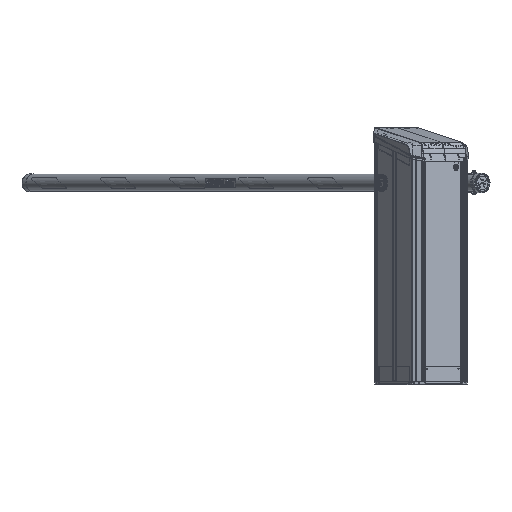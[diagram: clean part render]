
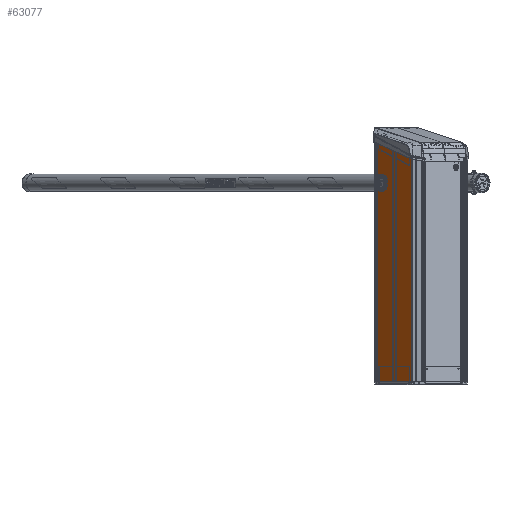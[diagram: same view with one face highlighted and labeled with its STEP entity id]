
A CAD part, front view. The second image highlights one B-rep face of the part: STEP entity #63077.
In plain terms, the highlighted planar face has unit normal (-0.801, -0.599, 0) as drawn and (1, 0, 0) by its records, which use the part's own axes.
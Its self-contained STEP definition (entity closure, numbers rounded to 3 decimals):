
#4330=CIRCLE('',#73113,28.5);
#4331=CIRCLE('',#73114,28.5);
#7286=LINE('',#110540,#13130);
#7287=LINE('',#110547,#13131);
#7288=LINE('',#110551,#13132);
#7289=LINE('',#110552,#13133);
#7290=LINE('',#110554,#13134);
#7291=LINE('',#110556,#13135);
#13130=VECTOR('',#83846,1000.);
#13131=VECTOR('',#83853,1000.);
#13132=VECTOR('',#83856,1000.);
#13133=VECTOR('',#83857,1000.);
#13134=VECTOR('',#83858,1000.);
#13135=VECTOR('',#83859,1000.);
#24450=ORIENTED_EDGE('',*,*,#39335,.F.);
#24451=ORIENTED_EDGE('',*,*,#39336,.F.);
#24452=ORIENTED_EDGE('',*,*,#39337,.F.);
#24453=ORIENTED_EDGE('',*,*,#39338,.F.);
#24454=ORIENTED_EDGE('',*,*,#39333,.F.);
#24455=ORIENTED_EDGE('',*,*,#39339,.T.);
#24456=ORIENTED_EDGE('',*,*,#39340,.T.);
#24457=ORIENTED_EDGE('',*,*,#39341,.F.);
#39333=EDGE_CURVE('',#47260,#47261,#7286,.T.);
#39335=EDGE_CURVE('',#47262,#47263,#4330,.T.);
#39336=EDGE_CURVE('',#47264,#47262,#7287,.T.);
#39337=EDGE_CURVE('',#47265,#47264,#4331,.T.);
#39338=EDGE_CURVE('',#47263,#47265,#7288,.T.);
#39339=EDGE_CURVE('',#47260,#47266,#7289,.T.);
#39340=EDGE_CURVE('',#47266,#47267,#7290,.T.);
#39341=EDGE_CURVE('',#47261,#47267,#7291,.T.);
#47260=VERTEX_POINT('',#110539);
#47261=VERTEX_POINT('',#110541);
#47262=VERTEX_POINT('',#110545);
#47263=VERTEX_POINT('',#110546);
#47264=VERTEX_POINT('',#110548);
#47265=VERTEX_POINT('',#110550);
#47266=VERTEX_POINT('',#110553);
#47267=VERTEX_POINT('',#110555);
#52949=EDGE_LOOP('',(#24450,#24451,#24452,#24453));
#52950=EDGE_LOOP('',(#24454,#24455,#24456,#24457));
#57168=FACE_BOUND('',#52949,.T.);
#57169=FACE_BOUND('',#52950,.T.);
#60222=PLANE('',#73112);
#63077=ADVANCED_FACE('',(#57168,#57169),#60222,.T.);
#73112=AXIS2_PLACEMENT_3D('',#110543,#83849,#83850);
#73113=AXIS2_PLACEMENT_3D('',#110544,#83851,#83852);
#73114=AXIS2_PLACEMENT_3D('',#110549,#83854,#83855);
#83846=DIRECTION('',(0.,0.,-1.));
#83849=DIRECTION('',(1.,0.,0.));
#83850=DIRECTION('',(0.,0.,-1.));
#83851=DIRECTION('',(1.,0.,0.));
#83852=DIRECTION('',(0.,-1.,0.));
#83853=DIRECTION('',(0.,1.,0.));
#83854=DIRECTION('',(1.,0.,0.));
#83855=DIRECTION('',(0.,1.,0.));
#83856=DIRECTION('',(0.,-1.,0.));
#83857=DIRECTION('',(0.,-0.951,0.309));
#83858=DIRECTION('',(0.,0.,-1.));
#83859=DIRECTION('',(0.,-1.,0.));
#110539=CARTESIAN_POINT('',(148.5,126.614,982.909));
#110540=CARTESIAN_POINT('',(148.5,126.614,1100.));
#110541=CARTESIAN_POINT('',(148.5,126.614,0.));
#110543=CARTESIAN_POINT('',(148.5,126.614,1100.));
#110544=CARTESIAN_POINT('',(148.5,-80.,863.));
#110545=CARTESIAN_POINT('',(148.5,-80.,834.5));
#110546=CARTESIAN_POINT('',(148.5,-80.,891.5));
#110547=CARTESIAN_POINT('',(148.5,-80.,834.5));
#110548=CARTESIAN_POINT('',(148.5,-85.,834.5));
#110549=CARTESIAN_POINT('',(148.5,-85.,863.));
#110550=CARTESIAN_POINT('',(148.5,-85.,891.5));
#110551=CARTESIAN_POINT('',(148.5,-80.,891.5));
#110552=CARTESIAN_POINT('',(148.5,92.202,994.09));
#110553=CARTESIAN_POINT('',(148.5,-126.614,1065.188));
#110554=CARTESIAN_POINT('',(148.5,-126.614,1100.));
#110555=CARTESIAN_POINT('',(148.5,-126.614,0.));
#110556=CARTESIAN_POINT('',(148.5,126.614,0.));
